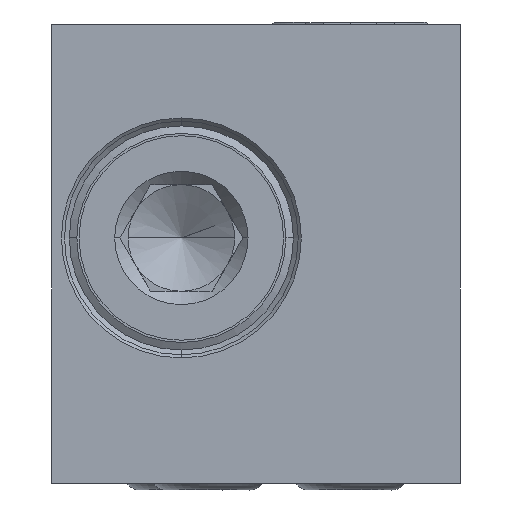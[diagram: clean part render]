
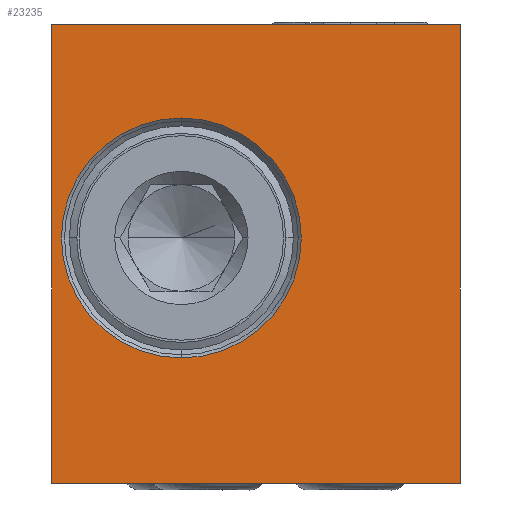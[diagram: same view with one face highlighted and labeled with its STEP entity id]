
A CAD part, left-side view. The second image highlights one B-rep face of the part: STEP entity #23235.
In plain terms, the highlighted planar face has unit normal (-1, 0, 0).
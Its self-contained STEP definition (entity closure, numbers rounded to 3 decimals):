
#4321=DIRECTION('',(0.,0.,1.));
#4322=VECTOR('',#4321,25.8);
#4323=CARTESIAN_POINT('',(-38.,11.5,-12.9));
#4324=LINE('',#4323,#4322);
#4325=DIRECTION('',(0.,-1.,0.));
#4326=VECTOR('',#4325,23.);
#4327=CARTESIAN_POINT('',(-38.,11.5,12.9));
#4328=LINE('',#4327,#4326);
#4329=DIRECTION('',(0.,0.,-1.));
#4330=VECTOR('',#4329,25.8);
#4331=CARTESIAN_POINT('',(-38.,-11.5,12.9));
#4332=LINE('',#4331,#4330);
#4333=DIRECTION('',(0.,1.,0.));
#4334=VECTOR('',#4333,23.);
#4335=CARTESIAN_POINT('',(-38.,-11.5,-12.9));
#4336=LINE('',#4335,#4334);
#4337=CARTESIAN_POINT('',(-38.,4.2,0.9));
#4338=DIRECTION('',(-1.,0.,0.));
#4339=DIRECTION('',(0.,0.,-1.));
#4340=AXIS2_PLACEMENT_3D('',#4337,#4338,#4339);
#4342=CARTESIAN_POINT('',(-38.,4.2,0.9));
#4343=DIRECTION('',(-1.,0.,0.));
#4344=DIRECTION('',(0.,0.,1.));
#4345=AXIS2_PLACEMENT_3D('',#4342,#4343,#4344);
#15859=CARTESIAN_POINT('',(-38.,11.5,12.9));
#15860=VERTEX_POINT('',#15859);
#15861=CARTESIAN_POINT('',(-38.,11.5,-12.9));
#15862=VERTEX_POINT('',#15861);
#15863=CARTESIAN_POINT('',(-38.,-11.5,12.9));
#15864=VERTEX_POINT('',#15863);
#15885=CARTESIAN_POINT('',(-38.,-11.5,-12.9));
#15886=VERTEX_POINT('',#15885);
#15931=CARTESIAN_POINT('',(-38.,4.2,-5.85));
#15932=CARTESIAN_POINT('',(-38.,4.2,7.65));
#15933=VERTEX_POINT('',#15931);
#15934=VERTEX_POINT('',#15932);
#23216=CARTESIAN_POINT('',(-38.,0.,0.));
#23217=DIRECTION('',(-1.,0.,0.));
#23218=DIRECTION('',(0.,-1.,0.));
#23219=AXIS2_PLACEMENT_3D('',#23216,#23217,#23218);
#23220=PLANE('',#23219);
#23221=ORIENTED_EDGE('',*,*,#23209,.T.);
#23222=ORIENTED_EDGE('',*,*,#20805,.T.);
#23224=ORIENTED_EDGE('',*,*,#23223,.T.);
#23226=ORIENTED_EDGE('',*,*,#23225,.T.);
#23227=EDGE_LOOP('',(#23221,#23222,#23224,#23226));
#23228=FACE_OUTER_BOUND('',#23227,.F.);
#23230=ORIENTED_EDGE('',*,*,#23229,.T.);
#23232=ORIENTED_EDGE('',*,*,#23231,.T.);
#23233=EDGE_LOOP('',(#23230,#23232));
#23234=FACE_BOUND('',#23233,.F.);
#23235=ADVANCED_FACE('',(#23228,#23234),#23220,.T.);
#4341=CIRCLE('',#4340,6.75);
#4346=CIRCLE('',#4345,6.75);
#20805=EDGE_CURVE('',#15860,#15864,#4328,.T.);
#23209=EDGE_CURVE('',#15862,#15860,#4324,.T.);
#23223=EDGE_CURVE('',#15864,#15886,#4332,.T.);
#23225=EDGE_CURVE('',#15886,#15862,#4336,.T.);
#23229=EDGE_CURVE('',#15933,#15934,#4341,.T.);
#23231=EDGE_CURVE('',#15934,#15933,#4346,.T.);
